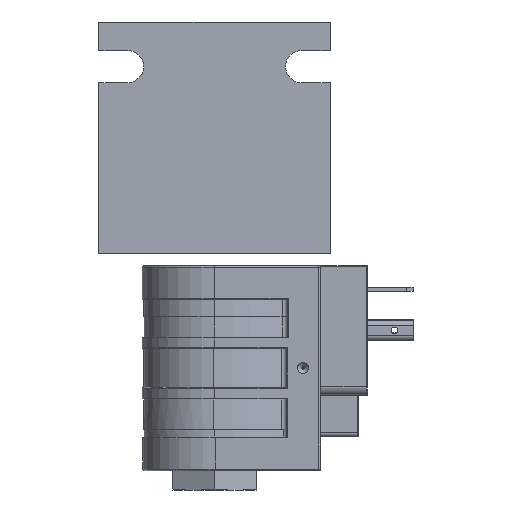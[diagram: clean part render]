
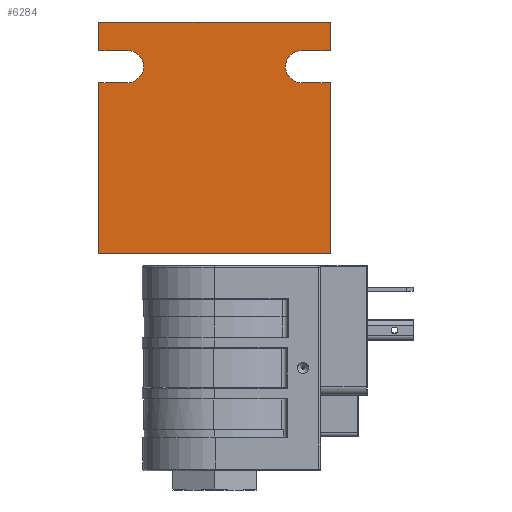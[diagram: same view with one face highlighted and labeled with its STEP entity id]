
A CAD part, left-side view. The second image highlights one B-rep face of the part: STEP entity #6284.
In plain terms, the highlighted planar face has unit normal (-1, 0, 0) as drawn and (0, 1, 0) by its records, which use the part's own axes.
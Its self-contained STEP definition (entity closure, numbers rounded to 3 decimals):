
#412=CIRCLE('',#6724,3.5);
#413=CIRCLE('',#6725,3.5);
#759=ORIENTED_EDGE('',*,*,#2339,.T.);
#760=ORIENTED_EDGE('',*,*,#2340,.T.);
#761=ORIENTED_EDGE('',*,*,#2341,.T.);
#762=ORIENTED_EDGE('',*,*,#2342,.T.);
#763=ORIENTED_EDGE('',*,*,#2323,.T.);
#764=ORIENTED_EDGE('',*,*,#2343,.F.);
#765=ORIENTED_EDGE('',*,*,#2291,.F.);
#766=ORIENTED_EDGE('',*,*,#2344,.T.);
#767=ORIENTED_EDGE('',*,*,#2345,.T.);
#768=ORIENTED_EDGE('',*,*,#2346,.T.);
#769=ORIENTED_EDGE('',*,*,#2347,.F.);
#770=ORIENTED_EDGE('',*,*,#2254,.T.);
#2254=EDGE_CURVE('',#3045,#3043,#3585,.T.);
#2291=EDGE_CURVE('',#3081,#3082,#3590,.T.);
#2323=EDGE_CURVE('',#3113,#3114,#3592,.T.);
#2339=EDGE_CURVE('',#3043,#3129,#3597,.T.);
#2340=EDGE_CURVE('',#3129,#3130,#3598,.T.);
#2341=EDGE_CURVE('',#3130,#3131,#412,.T.);
#2342=EDGE_CURVE('',#3131,#3113,#3599,.T.);
#2343=EDGE_CURVE('',#3082,#3114,#3600,.T.);
#2344=EDGE_CURVE('',#3081,#3132,#3601,.T.);
#2345=EDGE_CURVE('',#3132,#3133,#413,.T.);
#2346=EDGE_CURVE('',#3133,#3134,#3602,.T.);
#2347=EDGE_CURVE('',#3045,#3134,#3603,.T.);
#3043=VERTEX_POINT('',#9001);
#3045=VERTEX_POINT('',#9004);
#3081=VERTEX_POINT('',#9107);
#3082=VERTEX_POINT('',#9109);
#3113=VERTEX_POINT('',#9201);
#3114=VERTEX_POINT('',#9202);
#3129=VERTEX_POINT('',#9243);
#3130=VERTEX_POINT('',#9245);
#3131=VERTEX_POINT('',#9247);
#3132=VERTEX_POINT('',#9251);
#3133=VERTEX_POINT('',#9253);
#3134=VERTEX_POINT('',#9255);
#3585=LINE('',#9003,#3926);
#3590=LINE('',#9108,#3931);
#3592=LINE('',#9200,#3933);
#3597=LINE('',#9242,#3938);
#3598=LINE('',#9244,#3939);
#3599=LINE('',#9248,#3940);
#3600=LINE('',#9249,#3941);
#3601=LINE('',#9250,#3942);
#3602=LINE('',#9254,#3943);
#3603=LINE('',#9256,#3944);
#3926=VECTOR('',#7367,1000.);
#3931=VECTOR('',#7378,1000.);
#3933=VECTOR('',#7386,1000.);
#3938=VECTOR('',#7397,1000.);
#3939=VECTOR('',#7398,1000.);
#3940=VECTOR('',#7401,1000.);
#3941=VECTOR('',#7402,1000.);
#3942=VECTOR('',#7403,1000.);
#3943=VECTOR('',#7406,1000.);
#3944=VECTOR('',#7407,1000.);
#4277=EDGE_LOOP('',(#759,#760,#761,#762,#763,#764,#765,#766,#767,#768,#769,
#770));
#4746=FACE_BOUND('',#4277,.T.);
#5207=PLANE('',#6723);
#6284=ADVANCED_FACE('',(#4746),#5207,.T.);
#6723=AXIS2_PLACEMENT_3D('',#9241,#7395,#7396);
#6724=AXIS2_PLACEMENT_3D('',#9246,#7399,#7400);
#6725=AXIS2_PLACEMENT_3D('',#9252,#7404,#7405);
#7367=DIRECTION('',(1.,0.,0.));
#7378=DIRECTION('',(0.,0.,-1.));
#7386=DIRECTION('',(0.,0.,-1.));
#7395=DIRECTION('',(0.,1.,0.));
#7396=DIRECTION('',(-1.,0.,0.));
#7397=DIRECTION('',(0.,0.,-1.));
#7398=DIRECTION('',(-1.,0.,0.));
#7399=DIRECTION('',(0.,-1.,0.));
#7400=DIRECTION('',(1.,0.,0.));
#7401=DIRECTION('',(1.,0.,0.));
#7402=DIRECTION('',(1.,0.,0.));
#7403=DIRECTION('',(1.,0.,0.));
#7404=DIRECTION('',(0.,-1.,0.));
#7405=DIRECTION('',(-1.,0.,0.));
#7406=DIRECTION('',(-1.,0.,0.));
#7407=DIRECTION('',(0.,0.,-1.));
#9001=CARTESIAN_POINT('',(25.4,15.875,50.8));
#9003=CARTESIAN_POINT('',(-25.4,15.875,50.8));
#9004=CARTESIAN_POINT('',(-25.4,15.875,50.8));
#9107=CARTESIAN_POINT('',(-25.4,15.875,37.5));
#9108=CARTESIAN_POINT('',(-25.4,15.875,50.8));
#9109=CARTESIAN_POINT('',(-25.4,15.875,0.));
#9200=CARTESIAN_POINT('',(25.4,15.875,50.8));
#9201=CARTESIAN_POINT('',(25.4,15.875,37.5));
#9202=CARTESIAN_POINT('',(25.4,15.875,0.));
#9241=CARTESIAN_POINT('',(-25.4,15.875,50.8));
#9242=CARTESIAN_POINT('',(25.4,15.875,50.8));
#9243=CARTESIAN_POINT('',(25.4,15.875,44.5));
#9244=CARTESIAN_POINT('',(19.05,15.875,44.5));
#9245=CARTESIAN_POINT('',(19.05,15.875,44.5));
#9246=CARTESIAN_POINT('',(19.05,15.875,41.));
#9247=CARTESIAN_POINT('',(19.05,15.875,37.5));
#9248=CARTESIAN_POINT('',(19.05,15.875,37.5));
#9249=CARTESIAN_POINT('',(-25.4,15.875,0.));
#9250=CARTESIAN_POINT('',(-19.05,15.875,37.5));
#9251=CARTESIAN_POINT('',(-19.05,15.875,37.5));
#9252=CARTESIAN_POINT('',(-19.05,15.875,41.));
#9253=CARTESIAN_POINT('',(-19.05,15.875,44.5));
#9254=CARTESIAN_POINT('',(-19.05,15.875,44.5));
#9255=CARTESIAN_POINT('',(-25.4,15.875,44.5));
#9256=CARTESIAN_POINT('',(-25.4,15.875,50.8));
